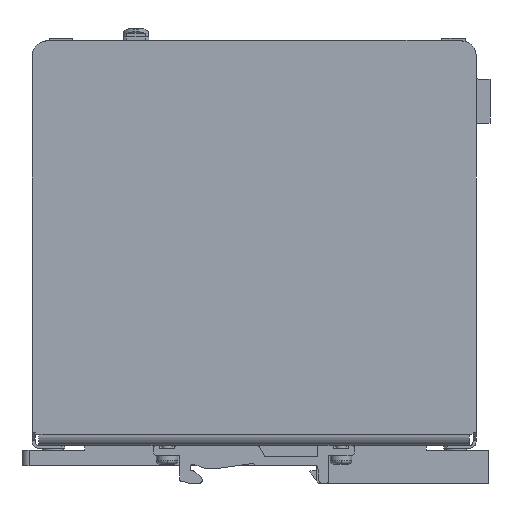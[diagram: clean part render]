
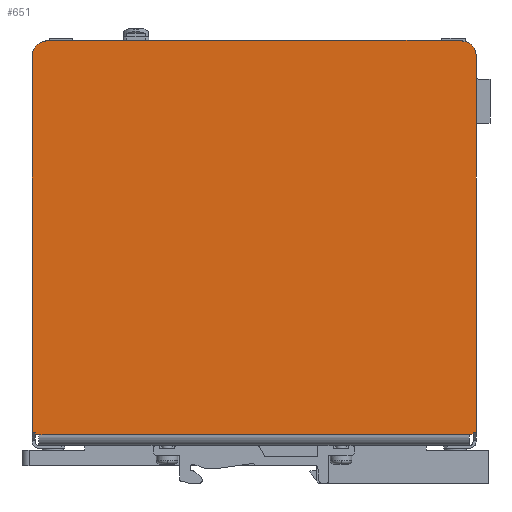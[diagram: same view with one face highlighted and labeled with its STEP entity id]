
A CAD part, left-side view. The second image highlights one B-rep face of the part: STEP entity #651.
In plain terms, the highlighted planar face has unit normal (-1, 0, 0).
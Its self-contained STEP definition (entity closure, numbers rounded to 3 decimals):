
#651 = ADVANCED_FACE( '', ( #1891 ), #1892, .F. );
#1891 = FACE_OUTER_BOUND( '', #3166, .T. );
#1892 = PLANE( '', #3167 );
#3166 = EDGE_LOOP( '', ( #8155, #8156, #8157, #8158, #8159, #8160, #8161, #8162, #8163, #8164, #8165, #8166, #8167, #8168, #8169, #8170, #8171, #8172, #8173, #8174 ) );
#3167 = AXIS2_PLACEMENT_3D( '', #8175, #8176, #8177 );
#8155 = ORIENTED_EDGE( '', *, *, #10089, .T. );
#8156 = ORIENTED_EDGE( '', *, *, #10114, .F. );
#8157 = ORIENTED_EDGE( '', *, *, #10115, .F. );
#8158 = ORIENTED_EDGE( '', *, *, #10116, .T. );
#8159 = ORIENTED_EDGE( '', *, *, #10117, .F. );
#8160 = ORIENTED_EDGE( '', *, *, #10118, .F. );
#8161 = ORIENTED_EDGE( '', *, *, #10119, .T. );
#8162 = ORIENTED_EDGE( '', *, *, #10120, .T. );
#8163 = ORIENTED_EDGE( '', *, *, #8984, .F. );
#8164 = ORIENTED_EDGE( '', *, *, #8993, .F. );
#8165 = ORIENTED_EDGE( '', *, *, #8997, .F. );
#8166 = ORIENTED_EDGE( '', *, *, #10121, .F. );
#8167 = ORIENTED_EDGE( '', *, *, #10122, .F. );
#8168 = ORIENTED_EDGE( '', *, *, #10123, .F. );
#8169 = ORIENTED_EDGE( '', *, *, #10124, .F. );
#8170 = ORIENTED_EDGE( '', *, *, #9398, .F. );
#8171 = ORIENTED_EDGE( '', *, *, #10125, .F. );
#8172 = ORIENTED_EDGE( '', *, *, #10126, .F. );
#8173 = ORIENTED_EDGE( '', *, *, #9421, .F. );
#8174 = ORIENTED_EDGE( '', *, *, #10081, .T. );
#8175 = CARTESIAN_POINT( '', ( -31., 0., 0. ) );
#8176 = DIRECTION( '', ( 1., 0., 0. ) );
#8177 = DIRECTION( '', ( 0., 0., -1. ) );
#8984 = EDGE_CURVE( '', #11056, #11058, #11059, .T. );
#8993 = EDGE_CURVE( '', #11073, #11056, #11075, .T. );
#8997 = EDGE_CURVE( '', #11079, #11073, #11081, .T. );
#9398 = EDGE_CURVE( '', #11743, #11745, #11746, .T. );
#9421 = EDGE_CURVE( '', #11782, #11784, #11785, .T. );
#10081 = EDGE_CURVE( '', #11782, #12865, #12866, .T. );
#10089 = EDGE_CURVE( '', #12865, #12876, #12878, .T. );
#10114 = EDGE_CURVE( '', #12915, #12876, #12916, .T. );
#10115 = EDGE_CURVE( '', #12917, #12915, #12918, .T. );
#10116 = EDGE_CURVE( '', #12917, #12919, #12920, .T. );
#10117 = EDGE_CURVE( '', #12921, #12919, #12922, .T. );
#10118 = EDGE_CURVE( '', #12923, #12921, #12924, .T. );
#10119 = EDGE_CURVE( '', #12923, #12925, #12926, .T. );
#10120 = EDGE_CURVE( '', #12925, #11058, #12927, .T. );
#10121 = EDGE_CURVE( '', #12928, #11079, #12929, .T. );
#10122 = EDGE_CURVE( '', #12930, #12928, #12931, .T. );
#10123 = EDGE_CURVE( '', #12932, #12930, #12933, .T. );
#10124 = EDGE_CURVE( '', #11745, #12932, #12934, .T. );
#10125 = EDGE_CURVE( '', #12935, #11743, #12936, .T. );
#10126 = EDGE_CURVE( '', #11784, #12935, #12937, .T. );
#11056 = VERTEX_POINT( '', #14438 );
#11058 = VERTEX_POINT( '', #14441 );
#11059 = LINE( '', #14442, #14443 );
#11073 = VERTEX_POINT( '', #14464 );
#11075 = CIRCLE( '', #14467, 3.75 );
#11079 = VERTEX_POINT( '', #14472 );
#11081 = LINE( '', #14475, #14476 );
#11743 = VERTEX_POINT( '', #15525 );
#11745 = VERTEX_POINT( '', #15528 );
#11746 = LINE( '', #15529, #15530 );
#11782 = VERTEX_POINT( '', #15585 );
#11784 = VERTEX_POINT( '', #15588 );
#11785 = LINE( '', #15589, #15590 );
#12865 = VERTEX_POINT( '', #17228 );
#12866 = LINE( '', #17229, #17230 );
#12876 = VERTEX_POINT( '', #17246 );
#12878 = LINE( '', #17249, #17250 );
#12915 = VERTEX_POINT( '', #17309 );
#12916 = LINE( '', #17310, #17311 );
#12917 = VERTEX_POINT( '', #17312 );
#12918 = LINE( '', #17313, #17314 );
#12919 = VERTEX_POINT( '', #17315 );
#12920 = LINE( '', #17316, #17317 );
#12921 = VERTEX_POINT( '', #17318 );
#12922 = LINE( '', #17319, #17320 );
#12923 = VERTEX_POINT( '', #17321 );
#12924 = LINE( '', #17322, #17323 );
#12925 = VERTEX_POINT( '', #17324 );
#12926 = LINE( '', #17325, #17326 );
#12927 = LINE( '', #17327, #17328 );
#12928 = VERTEX_POINT( '', #17329 );
#12929 = LINE( '', #17330, #17331 );
#12930 = VERTEX_POINT( '', #17332 );
#12931 = LINE( '', #17333, #17334 );
#12932 = VERTEX_POINT( '', #17335 );
#12933 = LINE( '', #17336, #17337 );
#12934 = LINE( '', #17338, #17339 );
#12935 = VERTEX_POINT( '', #17340 );
#12936 = LINE( '', #17341, #17342 );
#12937 = CIRCLE( '', #17343, 3.75 );
#14438 = CARTESIAN_POINT( '', ( -31., 0., 109.2 ) );
#14441 = CARTESIAN_POINT( '', ( -31., 0., 3.65 ) );
#14442 = CARTESIAN_POINT( '', ( -31., 0., 109.2 ) );
#14443 = VECTOR( '', #18180, 1. );
#14464 = CARTESIAN_POINT( '', ( -31., 3.75, 112.95 ) );
#14467 = AXIS2_PLACEMENT_3D( '', #18189, #18190, #18191 );
#14472 = CARTESIAN_POINT( '', ( -31., 3.75, 113.1 ) );
#14475 = CARTESIAN_POINT( '', ( -31., 3.75, 113.1 ) );
#14476 = VECTOR( '', #18197, 1. );
#15525 = CARTESIAN_POINT( '', ( -31., 120.25, 113.1 ) );
#15528 = CARTESIAN_POINT( '', ( -31., 110.85, 113.1 ) );
#15529 = CARTESIAN_POINT( '', ( -31., 120.25, 113.1 ) );
#15530 = VECTOR( '', #18622, 1. );
#15585 = CARTESIAN_POINT( '', ( -31., 124., 3.65 ) );
#15588 = CARTESIAN_POINT( '', ( -31., 124., 109.2 ) );
#15589 = CARTESIAN_POINT( '', ( -31., 124., 1. ) );
#15590 = VECTOR( '', #18649, 1. );
#17228 = CARTESIAN_POINT( '', ( -31., 123.15, 3.65 ) );
#17229 = CARTESIAN_POINT( '', ( -31., 62., 3.65 ) );
#17230 = VECTOR( '', #19603, 1. );
#17246 = CARTESIAN_POINT( '', ( -31., 123.15, 3.1 ) );
#17249 = CARTESIAN_POINT( '', ( -31., 123.15, 0. ) );
#17250 = VECTOR( '', #19611, 1. );
#17309 = CARTESIAN_POINT( '', ( -31., 122.15, 3.1 ) );
#17310 = CARTESIAN_POINT( '', ( -31., 123.15, 3.1 ) );
#17311 = VECTOR( '', #19640, 1. );
#17312 = CARTESIAN_POINT( '', ( -31., 122.15, 3. ) );
#17313 = CARTESIAN_POINT( '', ( -31., 122.15, 3.1 ) );
#17314 = VECTOR( '', #19641, 1. );
#17315 = CARTESIAN_POINT( '', ( -31., 1.85, 3. ) );
#17316 = CARTESIAN_POINT( '', ( -31., 62., 3. ) );
#17317 = VECTOR( '', #19642, 1. );
#17318 = CARTESIAN_POINT( '', ( -31., 1.85, 3.1 ) );
#17319 = CARTESIAN_POINT( '', ( -31., 1.85, 0. ) );
#17320 = VECTOR( '', #19643, 1. );
#17321 = CARTESIAN_POINT( '', ( -31., 0.85, 3.1 ) );
#17322 = CARTESIAN_POINT( '', ( -31., 1.85, 3.1 ) );
#17323 = VECTOR( '', #19644, 1. );
#17324 = CARTESIAN_POINT( '', ( -31., 0.85, 3.65 ) );
#17325 = CARTESIAN_POINT( '', ( -31., 0.85, 0. ) );
#17326 = VECTOR( '', #19645, 1. );
#17327 = CARTESIAN_POINT( '', ( -31., 0., 3.65 ) );
#17328 = VECTOR( '', #19646, 1. );
#17329 = CARTESIAN_POINT( '', ( -31., 13.15, 113.1 ) );
#17330 = CARTESIAN_POINT( '', ( -31., 13.15, 113.1 ) );
#17331 = VECTOR( '', #19647, 1. );
#17332 = CARTESIAN_POINT( '', ( -31., 13.15, 113.2 ) );
#17333 = CARTESIAN_POINT( '', ( -31., 13.15, 113.2 ) );
#17334 = VECTOR( '', #19648, 1. );
#17335 = CARTESIAN_POINT( '', ( -31., 110.85, 113.2 ) );
#17336 = CARTESIAN_POINT( '', ( -31., 110.85, 113.2 ) );
#17337 = VECTOR( '', #19649, 1. );
#17338 = CARTESIAN_POINT( '', ( -31., 110.85, 113.1 ) );
#17339 = VECTOR( '', #19650, 1. );
#17340 = CARTESIAN_POINT( '', ( -31., 120.25, 112.95 ) );
#17341 = CARTESIAN_POINT( '', ( -31., 120.25, 112.95 ) );
#17342 = VECTOR( '', #19651, 1. );
#17343 = AXIS2_PLACEMENT_3D( '', #19652, #19653, #19654 );
#18180 = DIRECTION( '', ( 0., 0., -1. ) );
#18189 = CARTESIAN_POINT( '', ( -31., 3.75, 109.2 ) );
#18190 = DIRECTION( '', ( 1., 0., 0. ) );
#18191 = DIRECTION( '', ( 0., 0., 1. ) );
#18197 = DIRECTION( '', ( 0., 0., -1. ) );
#18622 = DIRECTION( '', ( 0., -1., 0. ) );
#18649 = DIRECTION( '', ( 0., 0., 1. ) );
#19603 = DIRECTION( '', ( 0., -1., 0. ) );
#19611 = DIRECTION( '', ( 0., 0., -1. ) );
#19640 = DIRECTION( '', ( 0., 1., 0. ) );
#19641 = DIRECTION( '', ( 0., 0., 1. ) );
#19642 = DIRECTION( '', ( 0., -1., 0. ) );
#19643 = DIRECTION( '', ( 0., 0., -1. ) );
#19644 = DIRECTION( '', ( 0., 1., 0. ) );
#19645 = DIRECTION( '', ( 0., 0., 1. ) );
#19646 = DIRECTION( '', ( 0., -1., 0. ) );
#19647 = DIRECTION( '', ( 0., -1., 0. ) );
#19648 = DIRECTION( '', ( 0., 0., -1. ) );
#19649 = DIRECTION( '', ( 0., -1., 0. ) );
#19650 = DIRECTION( '', ( 0., 0., 1. ) );
#19651 = DIRECTION( '', ( 0., 0., 1. ) );
#19652 = CARTESIAN_POINT( '', ( -31., 120.25, 109.2 ) );
#19653 = DIRECTION( '', ( 1., 0., 0. ) );
#19654 = DIRECTION( '', ( 0., 1., 0. ) );
